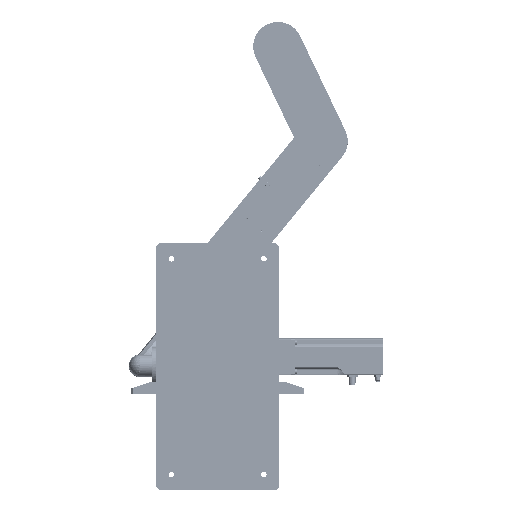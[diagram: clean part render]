
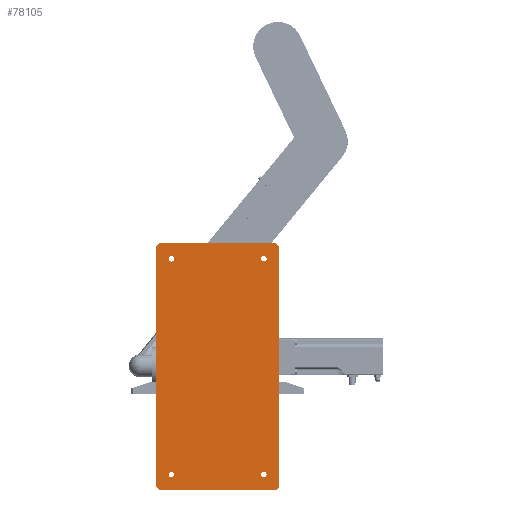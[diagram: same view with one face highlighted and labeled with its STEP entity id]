
A CAD part, front view. The second image highlights one B-rep face of the part: STEP entity #78105.
In plain terms, the highlighted planar face has unit normal (0, -1, 0) as drawn and (0, 0, -1) by its records, which use the part's own axes.
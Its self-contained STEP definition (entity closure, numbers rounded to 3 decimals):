
#4716=FACE_BOUND('',#15159,.T.);
#4717=FACE_BOUND('',#15160,.T.);
#4718=FACE_BOUND('',#15161,.T.);
#4719=FACE_BOUND('',#15162,.T.);
#6498=PLANE('',#87780);
#10515=FACE_OUTER_BOUND('',#15158,.T.);
#15158=EDGE_LOOP('',(#71495,#71496,#71497,#71498,#71499,#71500,#71501,#71502));
#15159=EDGE_LOOP('',(#71503));
#15160=EDGE_LOOP('',(#71504));
#15161=EDGE_LOOP('',(#71505));
#15162=EDGE_LOOP('',(#71506));
#20556=LINE('',#150414,#26022);
#20558=LINE('',#150418,#26024);
#20567=LINE('',#150436,#26033);
#20568=LINE('',#150438,#26034);
#20569=LINE('',#150440,#26035);
#20570=LINE('',#150442,#26036);
#20571=LINE('',#150444,#26037);
#20572=LINE('',#150445,#26038);
#26022=VECTOR('',#110487,10.);
#26024=VECTOR('',#110491,10.);
#26033=VECTOR('',#110502,10.);
#26034=VECTOR('',#110503,10.);
#26035=VECTOR('',#110504,10.);
#26036=VECTOR('',#110505,10.);
#26037=VECTOR('',#110506,10.);
#26038=VECTOR('',#110507,10.);
#30965=CIRCLE('',#87781,4.5);
#30966=CIRCLE('',#87782,4.5);
#30967=CIRCLE('',#87783,4.5);
#30968=CIRCLE('',#87784,4.5);
#38585=VERTEX_POINT('',#150411);
#38586=VERTEX_POINT('',#150413);
#38587=VERTEX_POINT('',#150417);
#38595=VERTEX_POINT('',#150435);
#38596=VERTEX_POINT('',#150437);
#38597=VERTEX_POINT('',#150439);
#38598=VERTEX_POINT('',#150441);
#38599=VERTEX_POINT('',#150443);
#38600=VERTEX_POINT('',#150446);
#38601=VERTEX_POINT('',#150448);
#38602=VERTEX_POINT('',#150450);
#38603=VERTEX_POINT('',#150452);
#49636=EDGE_CURVE('',#38585,#38586,#20556,.T.);
#49638=EDGE_CURVE('',#38586,#38587,#20558,.T.);
#49647=EDGE_CURVE('',#38595,#38585,#20567,.T.);
#49648=EDGE_CURVE('',#38596,#38595,#20568,.T.);
#49649=EDGE_CURVE('',#38597,#38596,#20569,.T.);
#49650=EDGE_CURVE('',#38598,#38597,#20570,.T.);
#49651=EDGE_CURVE('',#38599,#38598,#20571,.T.);
#49652=EDGE_CURVE('',#38587,#38599,#20572,.T.);
#49653=EDGE_CURVE('',#38600,#38600,#30965,.T.);
#49654=EDGE_CURVE('',#38601,#38601,#30966,.T.);
#49655=EDGE_CURVE('',#38602,#38602,#30967,.T.);
#49656=EDGE_CURVE('',#38603,#38603,#30968,.T.);
#71495=ORIENTED_EDGE('',*,*,#49636,.F.);
#71496=ORIENTED_EDGE('',*,*,#49647,.F.);
#71497=ORIENTED_EDGE('',*,*,#49648,.F.);
#71498=ORIENTED_EDGE('',*,*,#49649,.F.);
#71499=ORIENTED_EDGE('',*,*,#49650,.F.);
#71500=ORIENTED_EDGE('',*,*,#49651,.F.);
#71501=ORIENTED_EDGE('',*,*,#49652,.F.);
#71502=ORIENTED_EDGE('',*,*,#49638,.F.);
#71503=ORIENTED_EDGE('',*,*,#49653,.T.);
#71504=ORIENTED_EDGE('',*,*,#49654,.T.);
#71505=ORIENTED_EDGE('',*,*,#49655,.T.);
#71506=ORIENTED_EDGE('',*,*,#49656,.T.);
#78105=ADVANCED_FACE('',(#10515,#4716,#4717,#4718,#4719),#6498,.F.);
#87780=AXIS2_PLACEMENT_3D('',#150434,#110500,#110501);
#87781=AXIS2_PLACEMENT_3D('',#150447,#110508,#110509);
#87782=AXIS2_PLACEMENT_3D('',#150449,#110510,#110511);
#87783=AXIS2_PLACEMENT_3D('',#150451,#110512,#110513);
#87784=AXIS2_PLACEMENT_3D('',#150453,#110514,#110515);
#110487=DIRECTION('',(-0.707,0.707,0.));
#110491=DIRECTION('',(-1.,0.,0.));
#110500=DIRECTION('center_axis',(0.,0.,1.));
#110501=DIRECTION('ref_axis',(1.,0.,0.));
#110502=DIRECTION('',(0.,1.,0.));
#110503=DIRECTION('',(0.707,0.707,0.));
#110504=DIRECTION('',(1.,0.,0.));
#110505=DIRECTION('',(0.707,-0.707,0.));
#110506=DIRECTION('',(0.,-1.,0.));
#110507=DIRECTION('',(-0.707,-0.707,0.));
#110508=DIRECTION('center_axis',(0.,0.,1.));
#110509=DIRECTION('ref_axis',(1.,0.,0.));
#110510=DIRECTION('center_axis',(0.,0.,1.));
#110511=DIRECTION('ref_axis',(1.,0.,0.));
#110512=DIRECTION('center_axis',(0.,0.,1.));
#110513=DIRECTION('ref_axis',(1.,0.,0.));
#110514=DIRECTION('center_axis',(0.,0.,1.));
#110515=DIRECTION('ref_axis',(1.,0.,0.));
#150411=CARTESIAN_POINT('',(200.,95.,0.));
#150413=CARTESIAN_POINT('',(195.,100.,0.));
#150414=CARTESIAN_POINT('',(172.5,122.5,0.));
#150417=CARTESIAN_POINT('',(-195.,100.,0.));
#150418=CARTESIAN_POINT('',(200.,100.,0.));
#150434=CARTESIAN_POINT('Origin',(0.,0.,
0.));
#150435=CARTESIAN_POINT('',(200.,-95.,0.));
#150436=CARTESIAN_POINT('',(200.,-100.,0.));
#150437=CARTESIAN_POINT('',(195.,-100.,0.));
#150438=CARTESIAN_POINT('',(172.5,-122.5,0.));
#150439=CARTESIAN_POINT('',(-195.,-100.,0.));
#150440=CARTESIAN_POINT('',(-200.,-100.,0.));
#150441=CARTESIAN_POINT('',(-200.,-95.,0.));
#150442=CARTESIAN_POINT('',(-172.5,-122.5,0.));
#150443=CARTESIAN_POINT('',(-200.,95.,0.));
#150444=CARTESIAN_POINT('',(-200.,100.,0.));
#150445=CARTESIAN_POINT('',(-172.5,122.5,0.));
#150446=CARTESIAN_POINT('',(170.5,75.,0.));
#150447=CARTESIAN_POINT('Origin',(175.,75.,0.));
#150448=CARTESIAN_POINT('',(-179.5,75.,0.));
#150449=CARTESIAN_POINT('Origin',(-175.,75.,0.));
#150450=CARTESIAN_POINT('',(-179.5,-75.,0.));
#150451=CARTESIAN_POINT('Origin',(-175.,-75.,0.));
#150452=CARTESIAN_POINT('',(170.5,-75.,0.));
#150453=CARTESIAN_POINT('Origin',(175.,-75.,0.));
